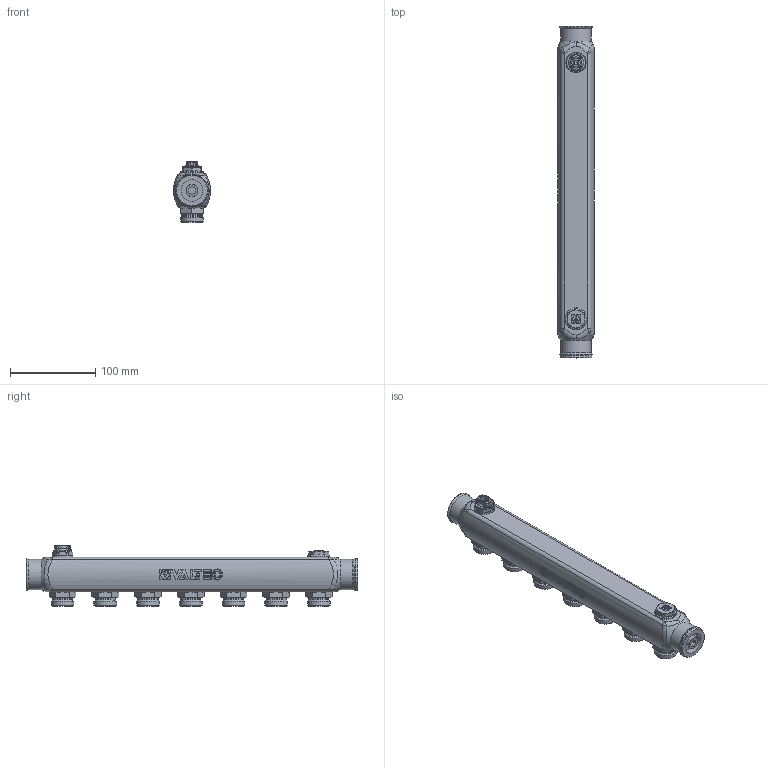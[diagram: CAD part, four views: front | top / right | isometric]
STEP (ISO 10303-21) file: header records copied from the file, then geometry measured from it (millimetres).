
FILE_DESCRIPTION(('STEP AP203'), '1');
FILE_NAME('覆.622621.034.000 捘 - VTc.505.SS.060507', '2024-08-29T12:44:07', ('Boss'), (''), 'C3D Converter', 'C3D Toolkit', '');
FILE_SCHEMA(('CONFIG_CONTROL_DESIGN'));
Length unit declared in the file: millimetre
Products named in the file (1): ВР.622621.034.000 СБ
Bounding box: 43 x 388.5 x 71.1 mm (x, y, z)
Volume: 543301.4 mm3; surface area: 154832.1 mm2
Topology: 1 solids, 24 shells, 822 faces, 1973 edges, 1230 vertices
Faces by surface type: plane 331, cylinder 212, cone 108, bspline 98, torus 73
Full cylindrical faces by diameter (mm): 5 x1, 5.3 x1, 10.2 x1, 12.5 x7, 14 x1, 18.1 x7, 22 x1, 23.5 x7, 24 x1, 25.5 x1, 26 x1, 26.441 x7, 30.292 x1, 35.5 x2, 37 x1
Entity records: 57084 total; most frequent: CARTESIAN_POINT 39856, ORIENTED_EDGE 3684, DIRECTION 3138, EDGE_CURVE 1842, AXIS2_PLACEMENT_3D 1269, VERTEX_POINT 1236, EDGE_LOOP 975, FACE_BOUND 843
